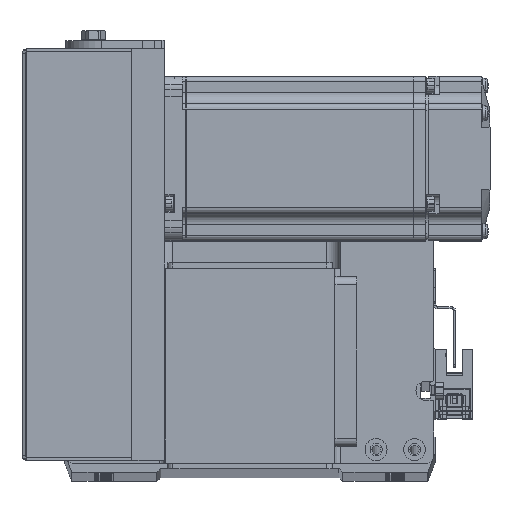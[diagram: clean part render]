
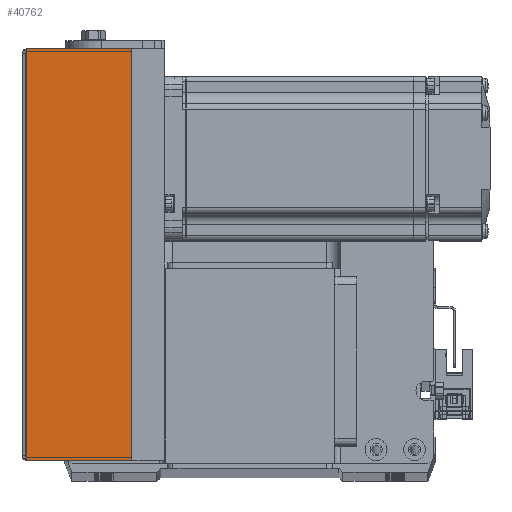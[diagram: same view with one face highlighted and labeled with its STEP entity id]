
A CAD part, top view. The second image highlights one B-rep face of the part: STEP entity #40762.
In plain terms, the highlighted planar face has unit normal (0, 0, 1) as drawn and (0, 1, 0) by its records, which use the part's own axes.
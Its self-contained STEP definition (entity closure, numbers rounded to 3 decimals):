
#2 = VECTOR ( 'NONE', #36081, 1000. ) ;
#2805 = EDGE_CURVE ( 'NONE', #11166, #8486, #35176, .T. ) ;
#4258 = CARTESIAN_POINT ( 'NONE',  ( 75., 36., 50.3 ) ) ;
#4381 = CARTESIAN_POINT ( 'NONE',  ( 0., 36., 12. ) ) ;
#4571 = EDGE_CURVE ( 'NONE', #28292, #19428, #32997, .T. ) ;
#4694 = VECTOR ( 'NONE', #17027, 1000. ) ;
#6362 = VECTOR ( 'NONE', #14736, 1000. ) ;
#6475 = ORIENTED_EDGE ( 'NONE', *, *, #4571, .T. ) ;
#8486 = VERTEX_POINT ( 'NONE', #29170 ) ;
#9648 = VECTOR ( 'NONE', #31576, 1000. ) ;
#10362 = ORIENTED_EDGE ( 'NONE', *, *, #32097, .F. ) ;
#11166 = VERTEX_POINT ( 'NONE', #36941 ) ;
#12951 = CARTESIAN_POINT ( 'NONE',  ( 75., 36., 12. ) ) ;
#13522 = ORIENTED_EDGE ( 'NONE', *, *, #39654, .T. ) ;
#13922 = LINE ( 'NONE', #17468, #6362 ) ;
#14736 = DIRECTION ( 'NONE',  ( -1., 0., 0. ) ) ;
#17027 = DIRECTION ( 'NONE',  ( 0., 0., -1. ) ) ;
#17468 = CARTESIAN_POINT ( 'NONE',  ( -75., 36., 50.3 ) ) ;
#17973 = FACE_OUTER_BOUND ( 'NONE', #36263, .T. ) ;
#19428 = VERTEX_POINT ( 'NONE', #12951 ) ;
#27029 = DIRECTION ( 'NONE',  ( 0., 0., 1. ) ) ;
#27836 = PLANE ( 'NONE',  #30871 ) ;
#28292 = VERTEX_POINT ( 'NONE', #36780 ) ;
#28436 = CARTESIAN_POINT ( 'NONE',  ( -75., 36., 50.3 ) ) ;
#29170 = CARTESIAN_POINT ( 'NONE',  ( -75., 36., 12. ) ) ;
#30871 = AXIS2_PLACEMENT_3D ( 'NONE', #40415, #40004, #27029 ) ;
#31576 = DIRECTION ( 'NONE',  ( 0., 0., -1. ) ) ;
#32097 = EDGE_CURVE ( 'NONE', #28292, #11166, #13922, .T. ) ;
#32185 = ORIENTED_EDGE ( 'NONE', *, *, #2805, .F. ) ;
#32997 = LINE ( 'NONE', #4258, #4694 ) ;
#35176 = LINE ( 'NONE', #28436, #9648 ) ;
#36081 = DIRECTION ( 'NONE',  ( -1., 0., 0. ) ) ;
#36263 = EDGE_LOOP ( 'NONE', ( #10362, #6475, #13522, #32185 ) ) ;
#36780 = CARTESIAN_POINT ( 'NONE',  ( 75., 36., 50.3 ) ) ;
#36941 = CARTESIAN_POINT ( 'NONE',  ( -75., 36., 50.3 ) ) ;
#39605 = LINE ( 'NONE', #4381, #2 ) ;
#39654 = EDGE_CURVE ( 'NONE', #19428, #8486, #39605, .T. ) ;
#40004 = DIRECTION ( 'NONE',  ( 0., -1., 0. ) ) ;
#40415 = CARTESIAN_POINT ( 'NONE',  ( 0., 36., 50.8 ) ) ;
#40762 = ADVANCED_FACE ( 'NONE', ( #17973 ), #27836, .F. ) ;
